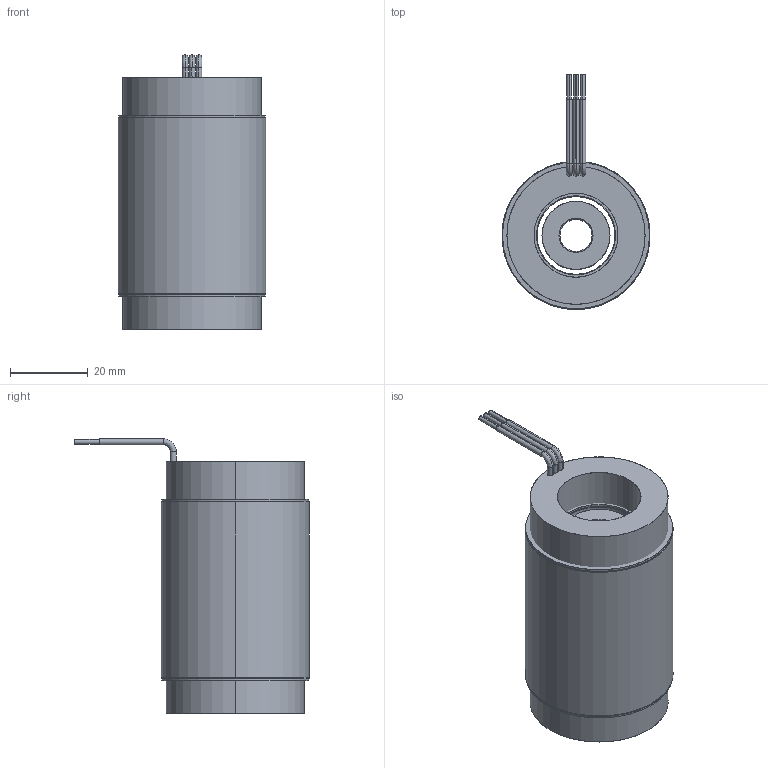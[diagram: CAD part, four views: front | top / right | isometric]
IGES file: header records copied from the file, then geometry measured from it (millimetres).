
Start section: SolidWorks IGES file using analytic representation for surfaces
Global section: file name: \\fs01.aveox.local\user documents\eng\My Documents\STANDARD STATOR ROTOR SETS\Standard rotor and stator set released\1.5 in stator diameter\6100250-05.IGS; native system: SolidWorks 2016; preprocessor: SolidWorks 2016; author: eng; date: 191111.084029; units: millimetre
Bounding box: 38.1 x 60.45 x 70.61 mm (x, y, z)
Surface area: 34043.8 mm2 (no closed solid volume)
Topology: 0 solids, 0 shells, 76 faces, 1696 edges, 1696 vertices
Faces by surface type: revolution 50, bspline 26
